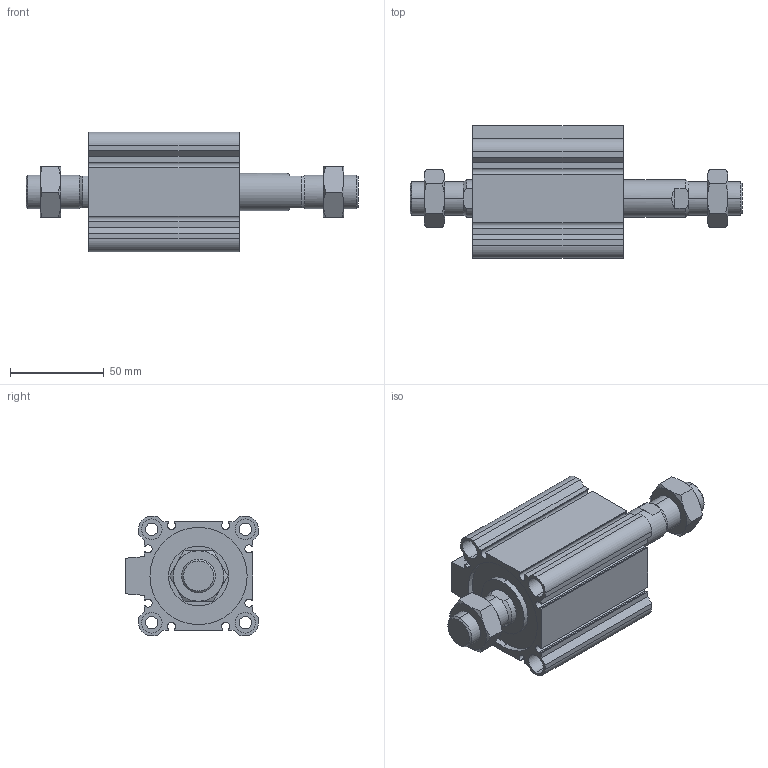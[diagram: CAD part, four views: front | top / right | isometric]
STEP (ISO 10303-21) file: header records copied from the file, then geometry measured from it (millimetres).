
FILE_DESCRIPTION (( 'STEP AP203' ), '1' );
FILE_NAME ('CCMB50-30M-P.STEP', '2020-08-10T11:45:02', ( '' ), ( '' ), 'SwSTEP 2.0', 'SolidWorks 2019', '' );
FILE_SCHEMA (( 'CONFIG_CONTROL_DESIGN' ));
Length unit declared in the file: millimetre
Products named in the file (1): CCMB50-30M-P
Bounding box: 177.5 x 71 x 64 mm (x, y, z)
Volume: 254422.8 mm3; surface area: 79556.3 mm2
Topology: 4 solids, 4 shells, 220 faces, 534 edges, 340 vertices
Faces by surface type: plane 98, cylinder 78, cone 44
Entity records: 7173 total; most frequent: CARTESIAN_POINT 1867, DIRECTION 1116, ORIENTED_EDGE 1068, EDGE_CURVE 534, AXIS2_PLACEMENT_3D 425, VERTEX_POINT 340, VECTOR 266, LINE 266
